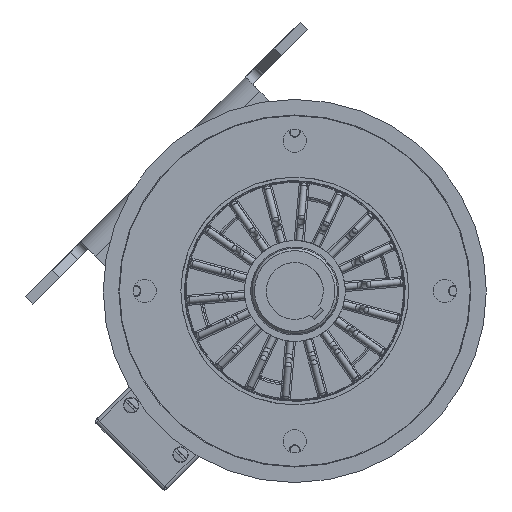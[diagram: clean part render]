
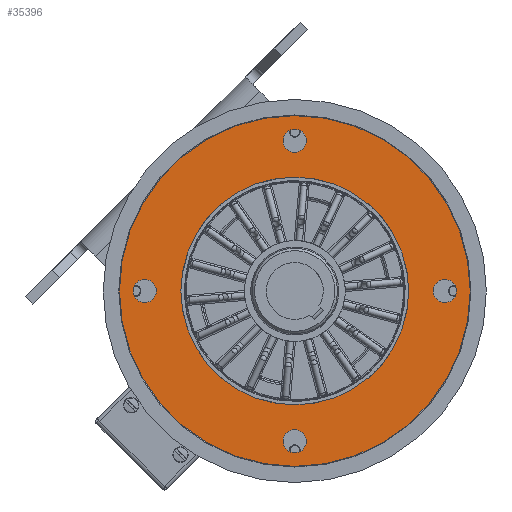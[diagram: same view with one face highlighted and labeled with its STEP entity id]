
A CAD part, front view. The second image highlights one B-rep face of the part: STEP entity #35396.
In plain terms, the highlighted planar face has unit normal (0, -1, 0).
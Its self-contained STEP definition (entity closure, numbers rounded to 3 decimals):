
#6657=FACE_BOUND('',#9179,.T.);
#6658=FACE_BOUND('',#9180,.T.);
#6659=FACE_BOUND('',#9181,.T.);
#6660=FACE_BOUND('',#9182,.T.);
#6661=FACE_BOUND('',#9183,.T.);
#6839=FACE_OUTER_BOUND('',#9178,.T.);
#9178=EDGE_LOOP('',(#23590));
#9179=EDGE_LOOP('',(#23591));
#9180=EDGE_LOOP('',(#23592));
#9181=EDGE_LOOP('',(#23593));
#9182=EDGE_LOOP('',(#23594));
#9183=EDGE_LOOP('',(#23595));
#11641=CIRCLE('',#37768,4.235);
#11651=CIRCLE('',#37781,0.281);
#11653=CIRCLE('',#37784,0.281);
#11655=CIRCLE('',#37787,0.281);
#11657=CIRCLE('',#37790,0.281);
#11660=CIRCLE('',#37805,2.75);
#14167=VERTEX_POINT('',#52233);
#14175=VERTEX_POINT('',#52255);
#14177=VERTEX_POINT('',#52261);
#14179=VERTEX_POINT('',#52267);
#14181=VERTEX_POINT('',#52273);
#14206=VERTEX_POINT('',#52886);
#17679=EDGE_CURVE('',#14167,#14167,#11641,.T.);
#17690=EDGE_CURVE('',#14175,#14175,#11651,.T.);
#17693=EDGE_CURVE('',#14177,#14177,#11653,.T.);
#17696=EDGE_CURVE('',#14179,#14179,#11655,.T.);
#17699=EDGE_CURVE('',#14181,#14181,#11657,.T.);
#17736=EDGE_CURVE('',#14206,#14206,#11660,.T.);
#23590=ORIENTED_EDGE('',*,*,#17679,.T.);
#23591=ORIENTED_EDGE('',*,*,#17690,.F.);
#23592=ORIENTED_EDGE('',*,*,#17693,.F.);
#23593=ORIENTED_EDGE('',*,*,#17696,.F.);
#23594=ORIENTED_EDGE('',*,*,#17699,.F.);
#23595=ORIENTED_EDGE('',*,*,#17736,.T.);
#34914=PLANE('',#37808);
#35396=ADVANCED_FACE('',(#6839,#6657,#6658,#6659,#6660,#6661),#34914,.F.);
#37768=AXIS2_PLACEMENT_3D('',#52235,#42089,#42090);
#37781=AXIS2_PLACEMENT_3D('',#52257,#42116,#42117);
#37784=AXIS2_PLACEMENT_3D('',#52263,#42123,#42124);
#37787=AXIS2_PLACEMENT_3D('',#52269,#42130,#42131);
#37790=AXIS2_PLACEMENT_3D('',#52275,#42137,#42138);
#37805=AXIS2_PLACEMENT_3D('',#52887,#42179,#42180);
#37808=AXIS2_PLACEMENT_3D('',#52894,#42188,#42189);
#42089=DIRECTION('center_axis',(0.,-1.,0.));
#42090=DIRECTION('ref_axis',(0.,0.,1.));
#42116=DIRECTION('center_axis',(0.,-1.,0.));
#42117=DIRECTION('ref_axis',(0.,0.,-1.));
#42123=DIRECTION('center_axis',(0.,-1.,0.));
#42124=DIRECTION('ref_axis',(0.,0.,-1.));
#42130=DIRECTION('center_axis',(0.,-1.,0.));
#42131=DIRECTION('ref_axis',(0.,0.,-1.));
#42137=DIRECTION('center_axis',(0.,-1.,0.));
#42138=DIRECTION('ref_axis',(0.,0.,-1.));
#42179=DIRECTION('center_axis',(0.,1.,0.));
#42180=DIRECTION('ref_axis',(0.,0.,1.));
#42188=DIRECTION('center_axis',(0.,1.,0.));
#42189=DIRECTION('ref_axis',(0.,0.,1.));
#52233=CARTESIAN_POINT('',(0.,-1.655,-4.235));
#52235=CARTESIAN_POINT('Origin',(0.,-1.655,0.));
#52255=CARTESIAN_POINT('',(0.,-1.655,-3.344));
#52257=CARTESIAN_POINT('Origin',(0.,-1.655,-3.625));
#52261=CARTESIAN_POINT('',(-3.625,-1.655,0.281));
#52263=CARTESIAN_POINT('Origin',(-3.625,-1.655,0.));
#52267=CARTESIAN_POINT('',(0.,-1.655,3.906));
#52269=CARTESIAN_POINT('Origin',(0.,-1.655,3.625));
#52273=CARTESIAN_POINT('',(3.625,-1.655,0.281));
#52275=CARTESIAN_POINT('Origin',(3.625,-1.655,0.));
#52886=CARTESIAN_POINT('',(0.,-1.655,-2.75));
#52887=CARTESIAN_POINT('Origin',(0.,-1.655,0.));
#52894=CARTESIAN_POINT('Origin',(4.25,-1.655,0.));
